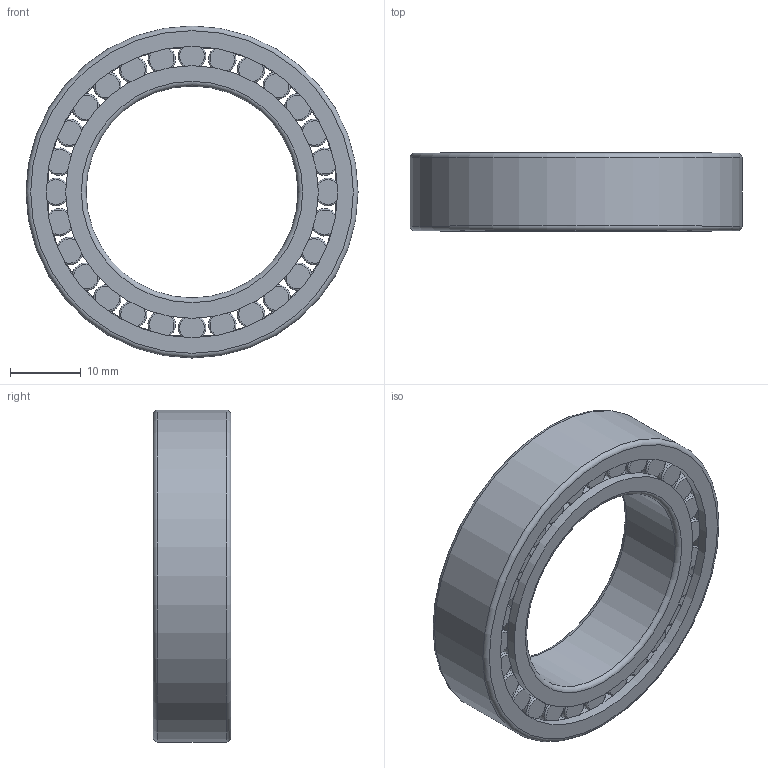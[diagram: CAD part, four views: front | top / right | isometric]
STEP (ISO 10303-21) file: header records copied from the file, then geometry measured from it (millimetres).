
FILE_DESCRIPTION(/* description */ (''),/* implementation_level */ '2;1');
FILE_NAME(/* name */ 'C:\Users\OUREHANEKD\Desktop\Ložiská\MODELY\JRVL\NCF\NCF29\NCF29--\NCF2906V.stp',/* time_stamp */ '2016-09-09T09:49:44+02:00',/* author */ ('OUREHANEKD'),/* organization */ (''),/* preprocessor_version */ 'ST-DEVELOPER v15.6',/* originating_system */ 'Autodesk Inventor 2015',/* authorisation */ '');
FILE_SCHEMA (('AUTOMOTIVE_DESIGN { 1 0 10303 214 3 1 1 }'));
Length unit declared in the file: millimetre
Products named in the file (5): NCF2906V-01; NCF2906V-02; NCF2906V-kr; NCF2906V-roller; NCF2906V
Assembly tree (31 placements, depth 2):
  NCF2906V
    NCF2906V-01
    NCF2906V-02
    NCF2906V-kr
    NCF2906V-roller  x28
Bounding box: 47 x 11 x 47 mm (x, y, z)
Volume: 9159 mm3; surface area: 10717.3 mm2
Topology: 31 solids, 31 shells, 167 faces, 239 edges, 139 vertices
Faces by surface type: plane 67, torus 61, cylinder 39
Full cylindrical faces by diameter (mm): 3.9 x28, 30 x1, 34.6 x1, 35.77 x2, 40.996 x1, 41.23 x1, 42.4 x2, 43.4 x2, 47 x1
Entity records: 1008 total; most frequent: DIRECTION 198, CARTESIAN_POINT 130, AXIS2_PLACEMENT_3D 99, EDGE_LOOP 62, ORIENTED_EDGE 62, STYLED_ITEM 36, PRODUCT_DEFINITION_SHAPE 36, FACE_OUTER_BOUND 32
